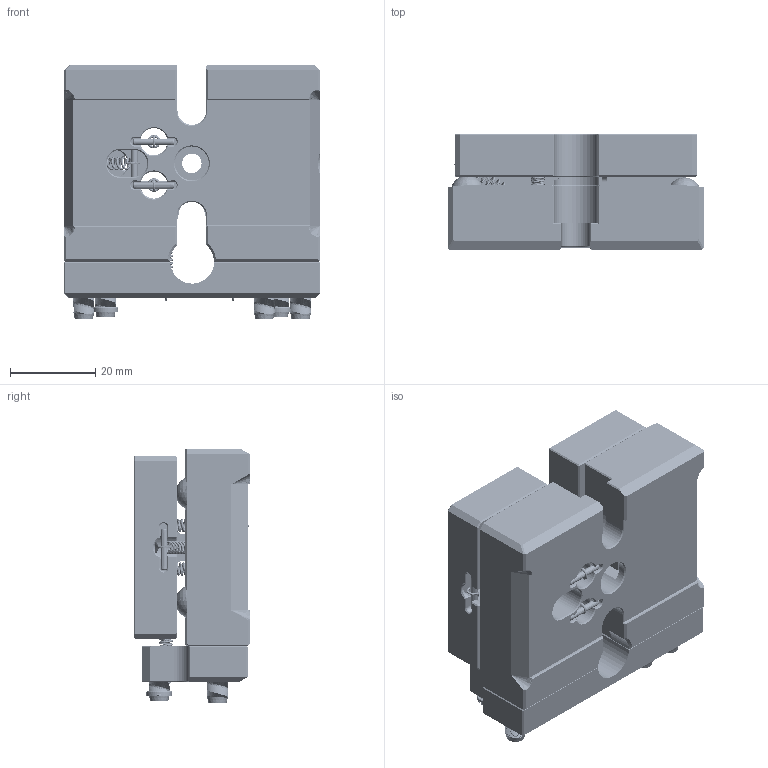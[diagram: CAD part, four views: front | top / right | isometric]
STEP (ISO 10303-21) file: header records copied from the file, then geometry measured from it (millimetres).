
FILE_DESCRIPTION((''),'2;1');
FILE_NAME('TSX-5_ASM','2021-04-25T',('Administrator'),(''),'CREO PARAMETRIC BY PTC INC, 2015290','CREO PARAMETRIC BY PTC INC, 2015290','');
FILE_SCHEMA(('CONFIG_CONTROL_DESIGN'));
Products named in the file (23): TSX-5_A4; BALL_8; TSX-5_A7; TSX-5_A8; TSX-5_A9; M2X6_KM; TSX-5_A6; TSX-5_A1; AXLE_2_5X16; SPRING_3X13_0_5; M2X8_HS; SPRING_3X20_0_5; TSX-5_A10; AXLE_1_5X19; AXLE_1_5X9_5; BALL_4_2; M2X9_5_HS; TSX-5_A2; M4X10_HM; TSX-5_A5; TSX-5_A3; SPRING_3X13_0_5_2; TSX-5_ASM
Assembly tree (51 placements, depth 2):
  TSX-5_ASM
    TSX-5_A4  x5
    BALL_8  x4
    TSX-5_A7
    TSX-5_A8
    TSX-5_A9
    M2X6_KM  x2
    TSX-5_A6  x2
    TSX-5_A1
    AXLE_2_5X16  x3
    SPRING_3X13_0_5  x2
    M2X8_HS  x2
    SPRING_3X20_0_5  x2
    TSX-5_A10
    AXLE_1_5X19
    AXLE_1_5X9_5  x7
    BALL_4_2  x5
    M2X9_5_HS
    TSX-5_A2
    M4X10_HM  x2
    TSX-5_A5  x5
    TSX-5_A3
    SPRING_3X13_0_5_2
Bounding box: 60.03 x 27.3 x 59.45 mm (x, y, z)
Volume: 59582.1 mm3; surface area: 42425.1 mm2
Topology: 46 solids, 46 shells, 3576 faces, 9959 edges, 6294 vertices
Faces by surface type: cylinder 1578, bspline 877, plane 694, cone 411, sphere 16
Entity records: 244687 total; most frequent: CARTESIAN_POINT 189349, ORIENTED_EDGE 13420, DIRECTION 8282, EDGE_CURVE 6710, VERTEX_POINT 4258, VECTOR 2978, LINE 2978, B_SPLINE_CURVE_WITH_KNOTS 2852
